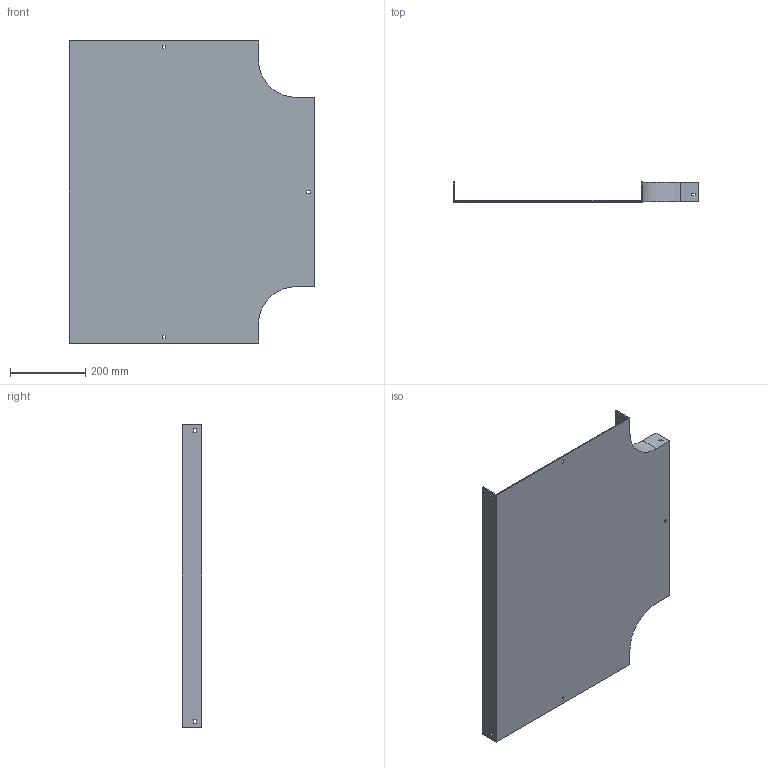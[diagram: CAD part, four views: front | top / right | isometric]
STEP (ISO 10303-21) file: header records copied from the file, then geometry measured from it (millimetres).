
FILE_DESCRIPTION (( 'STEP AP214' ), '1' );
FILE_NAME ('15B1B500.step', '2025-02-21T09:54:25', ( '' ), ( '' ), 'SwSTEP 2.0', 'SolidWorks 2023', '' );
FILE_SCHEMA (( 'AUTOMOTIVE_DESIGN' ));
Length unit declared in the file: millimetre
Products named in the file (1): 15B1B500
Bounding box: 654 x 52 x 804 mm (x, y, z)
Volume: 1920484.7 mm3; surface area: 1109383.4 mm2
Topology: 1 solids, 1 shells, 58 faces, 168 edges, 112 vertices
Faces by surface type: plane 54, cylinder 4
Entity records: 1939 total; most frequent: CARTESIAN_POINT 339, ORIENTED_EDGE 336, DIRECTION 294, EDGE_CURVE 168, VECTOR 160, LINE 160, VERTEX_POINT 112, EDGE_LOOP 76
